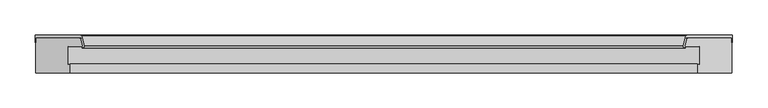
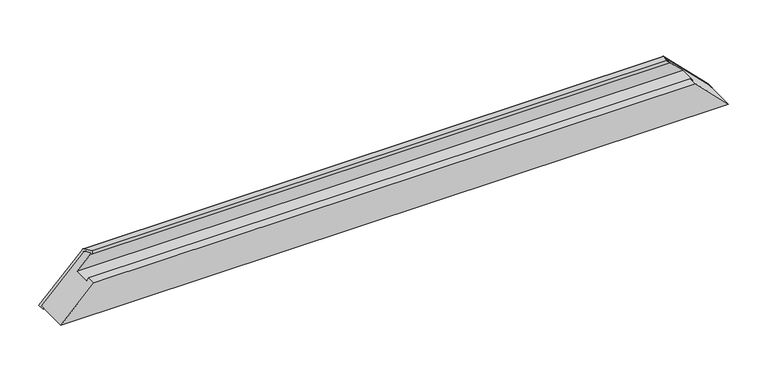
"""IFC4 building model written with IfcOpenShell, lengths in millimetres: proxy geometry, Weiku - Montante - Caixilho 02.2.01.005 : Weiku - Montante - Caixilho 02.2.01.005."""

from ifc_helpers import new_model, si_unit, frame, origin, place, context, project, spatial, polyline, ellipse_curve, source, transform, mapped, element, save
from ifc_brep_helpers import plane_surface, cylinder_surface, revolved_surface, advanced_brep


def generic_models_5208f639(model_context):
    return source(origin(), model_context, "Body", "AdvancedBrep", [
        advanced_brep(
        [(430.9663236, 4.0, 64.0336764), (430.0003978, 3.258819, 64.9996022), (426.1863753, -10.9753067, 68.8136247), (428.8909676, -14.5, 66.1090324), (428.8909676, -12.5, 66.1090324), (428.118227, -11.4929448, 66.881773), (430.6019557, -2.2235429, 64.3980443), (433.4997332, 0.0, 61.5002668), (495.0, 0.0, 0.0), (495.0, -6.4862095, 0.0), (496.0, -6.4862095, -1.0), (496.0, 4.0, -1.0), (-496.0, 4.0, -1.0), (-496.0, -6.4862095, -1.0), (-495.0, -6.4862095, 0.0), (-495.0, 0.0, 0.0), (-433.4997332, 0.0, 61.5002668), (-430.6019557, -2.2235429, 64.3980443), (-428.118227, -11.4929448, 66.881773), (-428.8909676, -12.5, 66.1090324), (-428.8909676, -14.5, 66.1090324), (-426.1863753, -10.9753067, 68.8136247), (-430.0003978, 3.258819, 64.9996022), (-430.9663236, 4.0, 64.0336764)],
        [
            (0, 1, ellipse_curve(frame((430.9663236, 3.0, 64.0336764), z_axis=(0.707106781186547, 0.0, 0.7071067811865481), x_axis=(-0.7071067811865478, 0.0, 0.707106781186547)), 1.4142136, 1.0)),
            (1, 2),
            (2, 3, ellipse_curve(frame((428.8909676, -11.7, 66.1090324), z_axis=(0.707106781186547, 0.0, 0.7071067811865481), x_axis=(-0.7071067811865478, 0.0, 0.707106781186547)), 3.959798, 2.8)),
            (3, 4),
            (4, 5, ellipse_curve(frame((428.8909676, -11.7, 66.1090324), z_axis=(-0.707106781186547, 0.0, -0.7071067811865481), x_axis=(0.7071067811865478, 0.0, -0.707106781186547)), 1.1313708, 0.8)),
            (5, 6),
            (6, 7, ellipse_curve(frame((433.4997332, -3.0, 61.5002668), z_axis=(-0.707106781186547, 0.0, -0.7071067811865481), x_axis=(0.7071067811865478, 0.0, -0.707106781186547)), 4.2426407, 3.0)),
            (7, 8),
            (8, 9),
            (9, 10),
            (10, 11),
            (11, 0),
            (12, 13),
            (13, 14),
            (14, 15),
            (15, 16),
            (16, 17, ellipse_curve(frame((-433.4997332, -3.0, 61.5002668), z_axis=(0.707106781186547, 0.0, -0.707106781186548), x_axis=(0.7071067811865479, 0.0, 0.707106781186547)), 4.2426407, 3.0)),
            (17, 18),
            (18, 19, ellipse_curve(frame((-428.8909676, -11.7, 66.1090324), z_axis=(0.707106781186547, 0.0, -0.707106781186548), x_axis=(0.7071067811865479, 0.0, 0.707106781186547)), 1.1313708, 0.8)),
            (19, 20),
            (20, 21, ellipse_curve(frame((-428.8909676, -11.7, 66.1090324), z_axis=(-0.707106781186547, 0.0, 0.707106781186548), x_axis=(-0.7071067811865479, 0.0, -0.707106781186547)), 3.959798, 2.8)),
            (21, 22),
            (22, 23, ellipse_curve(frame((-430.9663236, 3.0, 64.0336764), z_axis=(-0.707106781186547, 0.0, 0.707106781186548), x_axis=(-0.7071067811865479, 0.0, -0.707106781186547)), 1.4142136, 1.0)),
            (23, 12),
            (11, 12),
            (23, 0),
            (22, 1),
            (21, 2),
            (20, 3),
            (19, 4),
            (18, 5),
            (17, 6),
            (16, 7),
            (15, 8),
            (14, 9),
            (13, 10),
        ],
        [
            plane_surface(frame((425.0, 15.0, 70.0), z_axis=(0.707106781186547, 0.0, 0.7071067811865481), x_axis=(0.0, -1.0, 0.0))),
            plane_surface(frame((-565.0, 15.0, -70.0), z_axis=(-0.707106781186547, 0.0, 0.707106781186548), x_axis=(0.0, -1.0, 0.0))),
            plane_surface(frame((-497.8284271, 4.0, -1.0), z_axis=(0.0, 1.0, 0.0), x_axis=(1.0, 0.0, 0.0))),
            cylinder_surface(frame((-497.8284271, 3.0, 64.0336764), z_axis=(-1.0, 0.0, 0.0), x_axis=(0.0, -1.0, 0.0)), 1.0),
            plane_surface(frame((-497.8284271, 3.258819, 64.9996022), z_axis=(0.0, 0.25881904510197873, 0.9659258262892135), x_axis=(1.0, 0.0, 0.0))),
            cylinder_surface(frame((-497.8284271, -11.7, 66.1090324), z_axis=(-1.0, 0.0, 0.0), x_axis=(0.0, -1.0, 0.0)), 2.8),
            plane_surface(frame((-497.8284271, -14.5, 66.1090324), z_axis=(0.0, 0.0, -1.0), x_axis=(1.0, 0.0, 0.0))),
            revolved_surface(polyline([(429.6909675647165, -12.5, 66.1090324), (-429.69096756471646, -12.5, 66.1090324)]), (-497.8284271, -11.7, 66.1090324), (1.0, 0.0, 0.0)),
            plane_surface(frame((-497.8284271, -11.4929448, 66.881773), z_axis=(0.0, -0.2588190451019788, -0.9659258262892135), x_axis=(1.0, 0.0, 0.0))),
            revolved_surface(polyline([(436.49973320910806, -6.0, 61.5002668), (-436.499733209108, -6.0, 61.5002668)]), (-497.8284271, -3.0, 61.5002668), (1.0, 0.0, 0.0)),
            plane_surface(frame((-497.8284271, 0.0, 61.5002668), z_axis=(0.0, -1.0, 0.0), x_axis=(1.0, 0.0, 0.0))),
            plane_surface(frame((-497.8284271, 0.0, 0.0), z_axis=(0.0, 0.0, 1.0), x_axis=(1.0, 0.0, 0.0))),
            plane_surface(frame((-497.8284271, -6.4862095, 0.0), z_axis=(0.0, -1.0, 0.0), x_axis=(1.0, 0.0, 0.0))),
            plane_surface(frame((-497.8284271, -6.4862095, -1.0), z_axis=(0.0, 0.0, -1.0), x_axis=(1.0, 0.0, 0.0))),
        ],
        [
            (0, [[1, 2, 3, 4, 5, 6, 7, 8, 9, 10, 11, 12]]),
            (1, [[13, 14, 15, 16, 17, 18, 19, 20, 21, 22, 23, 24]]),
            (2, [[25, -24, 26, -12]]),
            (3, [[-26, -23, 27, -1]]),
            (4, [[-27, -22, 28, -2]]),
            (5, [[-28, -21, 29, -3]]),
            (6, [[-29, -20, 30, -4]]),
            (7, [[-30, -19, 31, -5]]),
            (8, [[-31, -18, 32, -6]]),
            (9, [[-32, -17, 33, -7]]),
            (10, [[-33, -16, 34, -8]]),
            (11, [[-34, -15, 35, -9]]),
            (12, [[-35, -14, 36, -10]]),
            (13, [[-36, -13, -25, -11]]),
        ],
    ),
        advanced_brep(
        [(-449.0, -12.5, 46.0), (449.0, -12.5, 46.0), (428.8909676, -12.5, 66.1090324), (-428.8909676, -12.5, 66.1090324), (-449.0, -37.8314286, 46.0), (449.0, -37.8314286, 46.0), (-446.0, -37.027581, 49.0), (446.0, -37.027581, 49.0), (-446.0, -50.0, 49.0), (446.0, -50.0, 49.0), (495.0, -50.0, 0.0), (-495.0, -50.0, 0.0), (-495.0, 0.0, 0.0), (495.0, 0.0, 0.0), (-433.4997332, 0.0, 61.5002668), (433.4997332, 0.0, 61.5002668), (-428.118227, -11.4929448, 66.881773), (428.118227, -11.4929448, 66.881773), (430.6019557, -2.2235429, 64.3980443), (-430.6019557, -2.2235429, 64.3980443)],
        [
            (0, 1),
            (1, 2),
            (2, 3),
            (3, 0),
            (4, 5),
            (5, 1),
            (0, 4),
            (6, 7),
            (7, 5),
            (4, 6),
            (8, 9),
            (9, 7),
            (6, 8),
            (10, 9),
            (8, 11),
            (11, 10),
            (11, 12),
            (12, 13),
            (13, 10),
            (12, 14),
            (14, 15),
            (15, 13),
            (16, 17),
            (17, 18),
            (18, 19),
            (19, 16),
            (3, 16, ellipse_curve(frame((-428.8909676, -11.7, 66.1090324), z_axis=(-0.707106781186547, 0.0, 0.707106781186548), x_axis=(-0.7071067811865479, 0.0, -0.707106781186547)), 1.1313708, 0.8)),
            (19, 14, ellipse_curve(frame((-433.4997332, -3.0, 61.5002668), z_axis=(-0.707106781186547, 0.0, 0.707106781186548), x_axis=(-0.7071067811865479, 0.0, -0.707106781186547)), 4.2426407, 3.0)),
            (15, 18, ellipse_curve(frame((433.4997332, -3.0, 61.5002668), z_axis=(0.707106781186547, 0.0, 0.7071067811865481), x_axis=(-0.7071067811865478, 0.0, 0.707106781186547)), 4.2426407, 3.0)),
            (17, 2, ellipse_curve(frame((428.8909676, -11.7, 66.1090324), z_axis=(0.707106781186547, 0.0, 0.7071067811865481), x_axis=(-0.7071067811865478, 0.0, 0.707106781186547)), 1.1313708, 0.8)),
        ],
        [
            plane_surface(frame((-495.0, -12.5, 66.1090324), z_axis=(0.0, -1.0, 0.0), x_axis=(1.0, 0.0, 0.0))),
            plane_surface(frame((-495.0, -12.5, 46.0), z_axis=(0.0, 0.0, 1.0), x_axis=(1.0, 0.0, 0.0))),
            plane_surface(frame((-495.0, -37.8314286, 46.0), z_axis=(0.0, 0.9659258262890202, -0.2588190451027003), x_axis=(1.0, 0.0, 0.0))),
            plane_surface(frame((-495.0, -37.027581, 49.0), z_axis=(0.0, 0.0, 1.0), x_axis=(1.0, 0.0, 0.0))),
            plane_surface(frame((-495.0, -50.0, 49.0), z_axis=(0.0, -1.0, 0.0), x_axis=(1.0, 0.0, 0.0))),
            plane_surface(frame((-495.0, -50.0, 0.0), z_axis=(0.0, 0.0, -1.0), x_axis=(1.0, 0.0, 0.0))),
            plane_surface(frame((-495.0, 0.0, 0.0), z_axis=(0.0, 1.0, 0.0), x_axis=(1.0, 0.0, 0.0))),
            plane_surface(frame((-495.0, -2.2235429, 64.3980443), z_axis=(0.0, 0.2588190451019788, 0.9659258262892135), x_axis=(1.0, 0.0, 0.0))),
            plane_surface(frame((-565.0, 15.0, -70.0), z_axis=(-0.707106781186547, 0.0, 0.707106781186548), x_axis=(0.0, -1.0, 0.0))),
            plane_surface(frame((425.0, 15.0, 70.0), z_axis=(0.707106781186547, 0.0, 0.7071067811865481), x_axis=(0.0, -1.0, 0.0))),
            cylinder_surface(frame((-495.0, -11.7, 66.1090324), z_axis=(-1.0, 0.0, 0.0), x_axis=(0.0, -1.0, 0.0)), 0.8),
            cylinder_surface(frame((-495.0, -3.0, 61.5002668), z_axis=(-1.0, 0.0, 0.0), x_axis=(0.0, -1.0, 0.0)), 3.0),
        ],
        [
            (0, [[1, 2, 3, 4]]),
            (1, [[5, 6, -1, 7]]),
            (2, [[8, 9, -5, 10]]),
            (3, [[11, 12, -8, 13]]),
            (4, [[14, -11, 15, 16]]),
            (5, [[17, 18, 19, -16]]),
            (6, [[20, 21, 22, -18]]),
            (7, [[23, 24, 25, 26]]),
            (8, [[27, -26, 28, -20, -17, -15, -13, -10, -7, -4]]),
            (9, [[-6, -9, -12, -14, -19, -22, 29, -24, 30, -2]]),
            (10, [[-3, -30, -23, -27]]),
            (11, [[-25, -29, -21, -28]]),
        ],
    ),
    ])


if __name__ == "__main__":
    model = new_model("IFC4")
    model_context = context("Model", 3, world=origin())
    ifc_project = project(units=[si_unit("LENGTHUNIT", "METRE", prefix="MILLI")], contexts=[model_context])
    site = spatial("IfcSite", under=ifc_project)
    building = spatial("IfcBuilding", under=site)
    placement = place(None, origin())
    generic_models_shape = generic_models_5208f639(model_context)
    element("IfcBuildingElementProxy", 1, Name="Weiku - Montante - Caixilho 02.2.01.005 : Weiku - Montante - Caixilho 02.2.01.005", ObjectType="Weiku - Montante - Caixilho 02.2.01.005 : Weiku - Montante - Caixilho 02.2.01.005", at=placement, inside=building, context=model_context, shape_type="MappedRepresentation", body=[
        mapped(generic_models_shape, transform((0.0, 0.0, 0.0), x_axis=(1.0, 0.0, 0.0), y_axis=(0.0, 1.0, 0.0), z_axis=(0.0, 0.0, 1.0))),
    ])
    save(model, "model.ifc")
